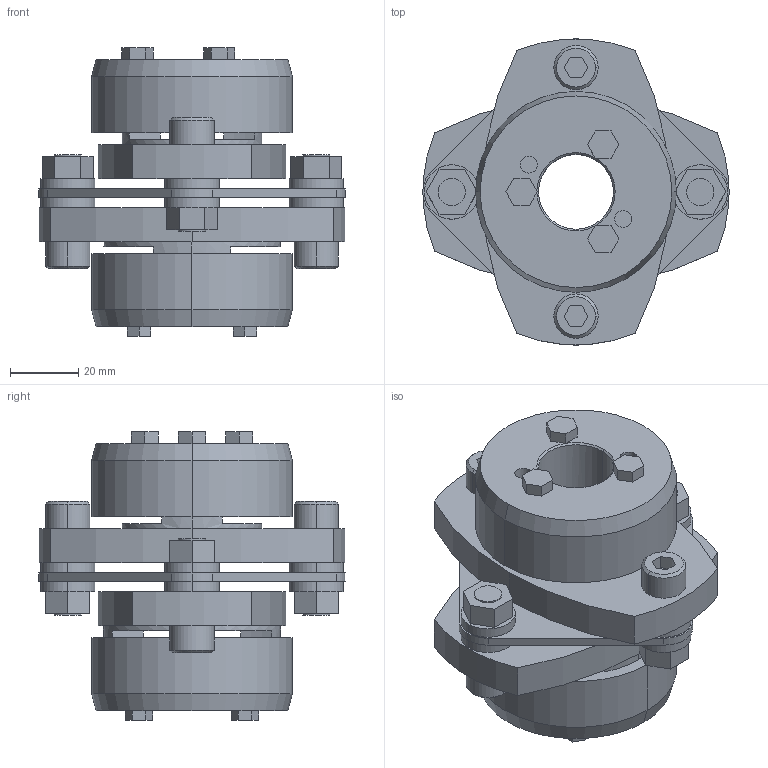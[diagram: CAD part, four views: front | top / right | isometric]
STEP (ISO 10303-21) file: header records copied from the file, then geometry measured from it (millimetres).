
FILE_DESCRIPTION((''),'2;1');
FILE_NAME('LCS-90T7-22×32.stp','2011-09-09T10:04:51',(''),(''),'AutoCAD STEP 2000i','AutoCAD 2000i',', , ');
FILE_SCHEMA(('CONFIG_CONTROL_DESIGN'));
Length unit declared in the file: millimetre
Products named in the file (10): LCS-90T7-19×32; 忣兜1; LC90T7-T032; LC90T7-T030; LC90T7-T025; LC90T7-T019-1; LC90T7-T019; LC90-B019-1; LC90-B019; LCS90-ITA
Assembly tree (9 placements, depth 2):
  LCS-90T7-19×32
    忣兜1
    LC90T7-T032
    LC90T7-T030
    LC90T7-T025
    LC90T7-T019-1
    LC90T7-T019
    LC90-B019-1
    LC90-B019
    LCS90-ITA
Bounding box: 90 x 89.94 x 84.8 mm (x, y, z)
Volume: 189446 mm3; surface area: 51630.4 mm2
Topology: 1 solids, 1 shells, 242 faces, 598 edges, 390 vertices
Faces by surface type: plane 142, cylinder 80, cone 20
Entity records: 7433 total; most frequent: DIRECTION 1304, CARTESIAN_POINT 1240, ORIENTED_EDGE 1196, EDGE_CURVE 598, AXIS2_PLACEMENT_3D 454, VECTOR 396, LINE 396, VERTEX_POINT 390
